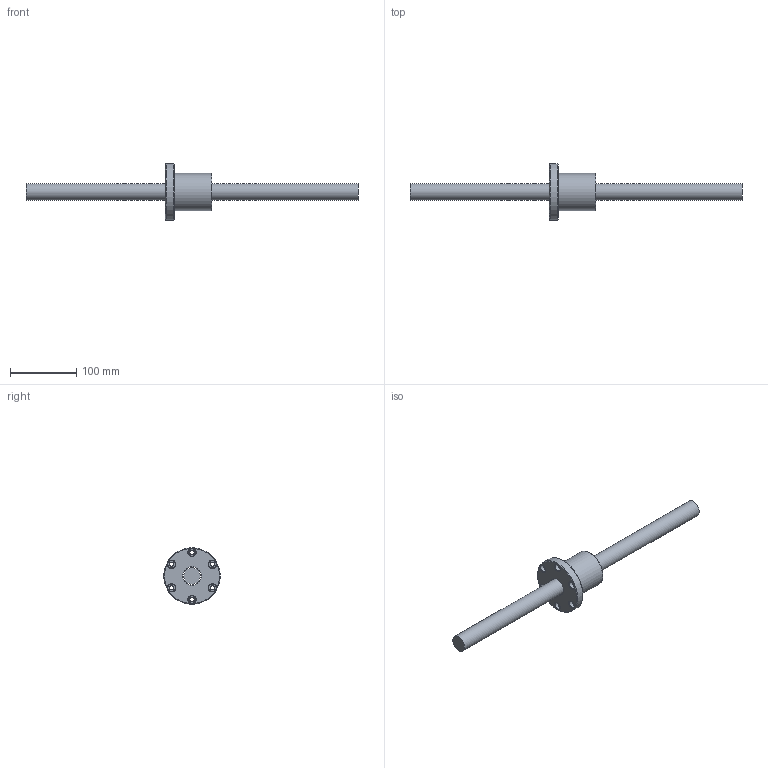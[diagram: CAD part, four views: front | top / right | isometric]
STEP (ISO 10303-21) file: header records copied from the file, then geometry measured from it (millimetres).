
FILE_DESCRIPTION (( 'STEP AP203' ), '1' );
FILE_NAME ('SFV02508N-4.8.step', '2024-05-20T03:38:24', ( '' ), ( '' ), 'SwSTEP 2.0', 'SolidWorks 2022', '' );
FILE_SCHEMA (( 'CONFIG_CONTROL_DESIGN' ));
Length unit declared in the file: millimetre
Products named in the file (1): SFV02508N-4.8
Bounding box: 500 x 85 x 85 mm (x, y, z)
Volume: 411784.8 mm3; surface area: 71674.7 mm2
Topology: 2 solids, 2 shells, 57 faces, 145 edges, 93 vertices
Faces by surface type: cylinder 24, cone 13, plane 12, bspline 5, torus 3
Full cylindrical faces by diameter (mm): 4 x1, 5 x6, 6.5 x6, 11 x6, 25 x1, 27.6 x1, 56 x1, 85 x1
Entity records: 3056 total; most frequent: CARTESIAN_POINT 2005, DIRECTION 206, ORIENTED_EDGE 148, EDGE_LOOP 102, AXIS2_PLACEMENT_3D 101, EDGE_CURVE 74, FACE_OUTER_BOUND 72, VERTEX_POINT 64
